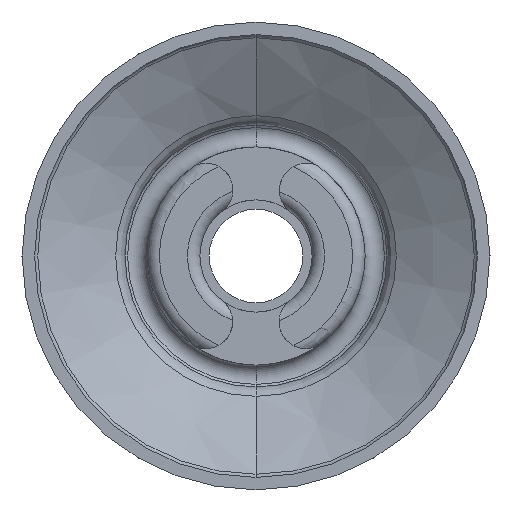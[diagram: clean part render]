
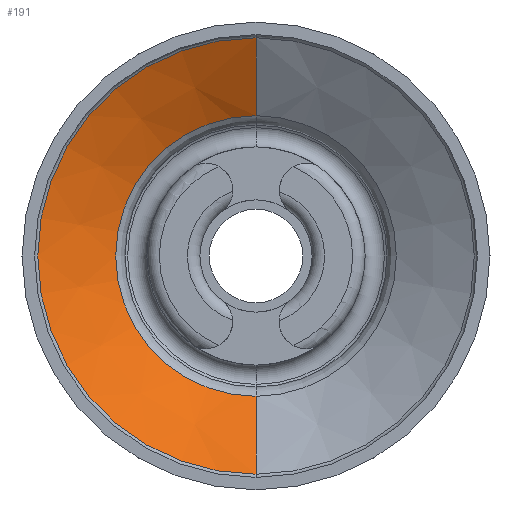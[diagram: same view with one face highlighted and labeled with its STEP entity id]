
A CAD part, front view. The second image highlights one B-rep face of the part: STEP entity #191.
In plain terms, the highlighted conical face has half-angle 60 degrees and reference radius 4.5 mm.
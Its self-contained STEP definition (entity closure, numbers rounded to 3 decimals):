
#35 = DIRECTION ( 'NONE',  ( 0., 1., 0. ) ) ;
#66 = DIRECTION ( 'NONE',  ( 0., 0., 1. ) ) ;
#191 = ADVANCED_FACE ( 'NONE', ( #1136 ), #237, .F. ) ;
#237 = CONICAL_SURFACE ( 'NONE', #2850, 4.5, 1.047 ) ;
#267 = CARTESIAN_POINT ( 'NONE',  ( 0., 1.65, 0. ) ) ;
#306 = AXIS2_PLACEMENT_3D ( 'NONE', #1598, #2238, #66 ) ;
#322 = AXIS2_PLACEMENT_3D ( 'NONE', #267, #35, #1149 ) ;
#401 = CARTESIAN_POINT ( 'NONE',  ( 0., 1.65, -4.5 ) ) ;
#675 = DIRECTION ( 'NONE',  ( 0., -1., 0. ) ) ;
#676 = VERTEX_POINT ( 'NONE', #2055 ) ;
#897 = VERTEX_POINT ( 'NONE', #1158 ) ;
#921 = ORIENTED_EDGE ( 'NONE', *, *, #2859, .T. ) ;
#968 = VECTOR ( 'NONE', #2153, 1000. ) ;
#1024 = LINE ( 'NONE', #1456, #1860 ) ;
#1136 = FACE_OUTER_BOUND ( 'NONE', #1401, .T. ) ;
#1149 = DIRECTION ( 'NONE',  ( 0., 0., 1. ) ) ;
#1158 = CARTESIAN_POINT ( 'NONE',  ( 0., 0.207, -7. ) ) ;
#1237 = LINE ( 'NONE', #401, #968 ) ;
#1338 = ORIENTED_EDGE ( 'NONE', *, *, #2703, .F. ) ;
#1401 = EDGE_LOOP ( 'NONE', ( #921, #1645, #2166, #1338 ) ) ;
#1456 = CARTESIAN_POINT ( 'NONE',  ( 0., 1.65, 4.5 ) ) ;
#1519 = CARTESIAN_POINT ( 'NONE',  ( 0., 1.65, -4.5 ) ) ;
#1541 = DIRECTION ( 'NONE',  ( 0., 0., -1. ) ) ;
#1550 = CIRCLE ( 'NONE', #322, 4.5 ) ;
#1555 = EDGE_CURVE ( 'NONE', #897, #1779, #1944, .T. ) ;
#1598 = CARTESIAN_POINT ( 'NONE',  ( 0., 0.207, 0. ) ) ;
#1638 = DIRECTION ( 'NONE',  ( 0., -0.5, 0.866 ) ) ;
#1645 = ORIENTED_EDGE ( 'NONE', *, *, #1711, .T. ) ;
#1673 = CARTESIAN_POINT ( 'NONE',  ( 0., 0.207, 7. ) ) ;
#1711 = EDGE_CURVE ( 'NONE', #676, #1779, #1024, .T. ) ;
#1779 = VERTEX_POINT ( 'NONE', #1673 ) ;
#1860 = VECTOR ( 'NONE', #1638, 1000. ) ;
#1944 = CIRCLE ( 'NONE', #306, 7. ) ;
#2003 = CARTESIAN_POINT ( 'NONE',  ( 0., 1.65, 0. ) ) ;
#2055 = CARTESIAN_POINT ( 'NONE',  ( 0., 1.65, 4.5 ) ) ;
#2153 = DIRECTION ( 'NONE',  ( 0., -0.5, -0.866 ) ) ;
#2166 = ORIENTED_EDGE ( 'NONE', *, *, #1555, .F. ) ;
#2238 = DIRECTION ( 'NONE',  ( 0., 1., 0. ) ) ;
#2346 = VERTEX_POINT ( 'NONE', #1519 ) ;
#2703 = EDGE_CURVE ( 'NONE', #2346, #897, #1237, .T. ) ;
#2850 = AXIS2_PLACEMENT_3D ( 'NONE', #2003, #675, #1541 ) ;
#2859 = EDGE_CURVE ( 'NONE', #2346, #676, #1550, .T. ) ;
